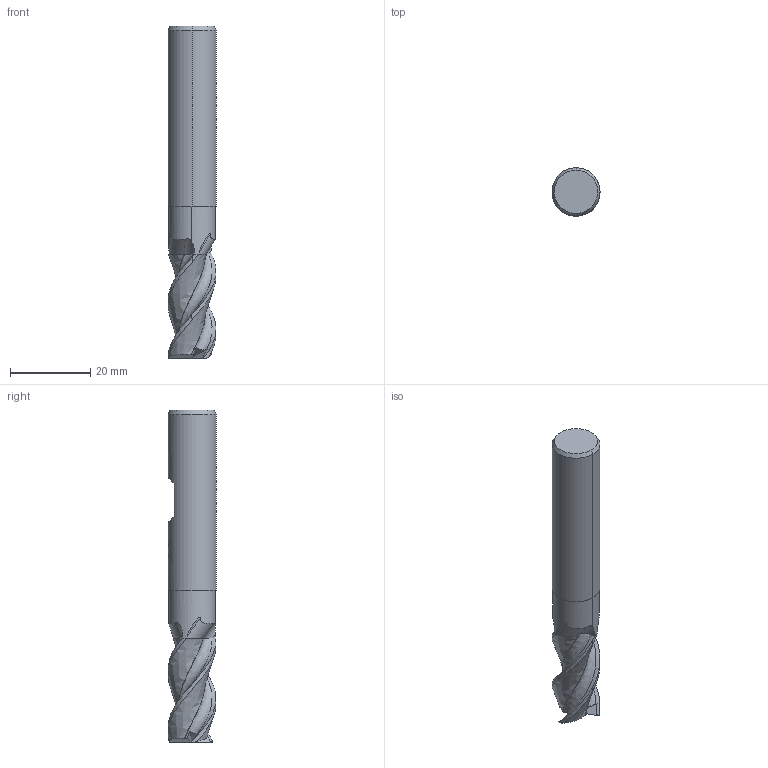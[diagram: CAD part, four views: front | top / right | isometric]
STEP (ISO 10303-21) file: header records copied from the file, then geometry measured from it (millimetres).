
FILE_DESCRIPTION(('no description'),'unknown implementation level');
FILE_NAME('solidkY12Y1ah6b_H6l8WfMewLTHY_1I_1.STP',' ',('CIMSOURCE GmbH'),('CADClick - KiM GmbH - www.kimweb.de'),'unknown preprocess','ACIS','unknown authorization');
FILE_SCHEMA(('automotive_design'));
Length unit declared in the file: millimetre
Products named in the file (2): 1; 2
Bounding box: 12 x 12 x 83 mm (x, y, z)
Volume: 7766.7 mm3; surface area: 3422.4 mm2
Topology: 2 solids, 2 shells, 73 faces, 202 edges, 133 vertices
Faces by surface type: plane 29, revolution 12, bspline 12, cylinder 11, cone 9
Entity records: 9931 total; most frequent: CARTESIAN_POINT 5921, STYLED_ITEM 410, PRESENTATION_STYLE_ASSIGNMENT 410, COLOUR_RGB 410, ORIENTED_EDGE 404, DIRECTION 280, EDGE_CURVE 202, CURVE_STYLE 202
